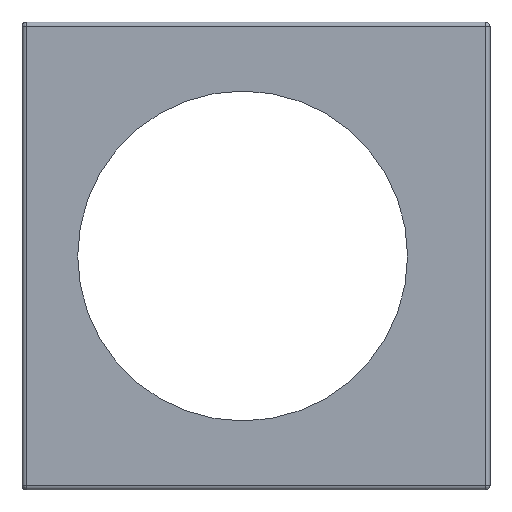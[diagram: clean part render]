
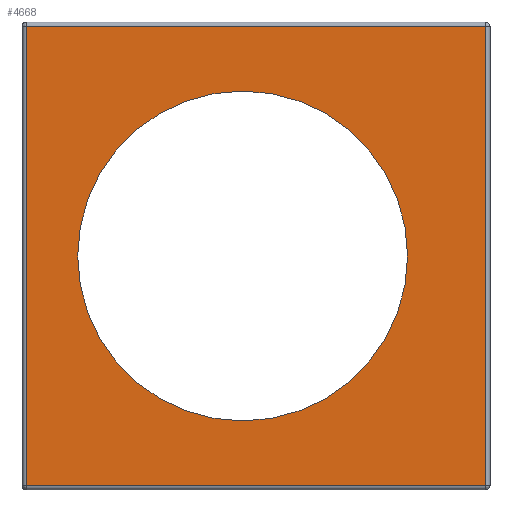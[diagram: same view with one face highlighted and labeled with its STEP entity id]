
A CAD part, left-side view. The second image highlights one B-rep face of the part: STEP entity #4668.
In plain terms, the highlighted planar face has unit normal (-1, 0, 0).
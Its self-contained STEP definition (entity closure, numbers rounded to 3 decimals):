
#382 = EDGE_CURVE ( 'NONE', #3660, #1232, #2609, .T. ) ;
#524 = FACE_OUTER_BOUND ( 'NONE', #1421, .T. ) ;
#639 = CARTESIAN_POINT ( 'NONE',  ( 2199.177, -681.094, -0.2 ) ) ;
#656 = VECTOR ( 'NONE', #1097, 1000. ) ;
#671 = AXIS2_PLACEMENT_3D ( 'NONE', #1227, #5343, #4101 ) ;
#885 = CARTESIAN_POINT ( 'NONE',  ( 2199.177, -670.194, -3.1 ) ) ;
#1097 = DIRECTION ( 'NONE',  ( 0., 0., -1. ) ) ;
#1122 = CARTESIAN_POINT ( 'NONE',  ( 2199.177, -670.194, -17.9 ) ) ;
#1165 = VERTEX_POINT ( 'NONE', #5241 ) ;
#1227 = CARTESIAN_POINT ( 'NONE',  ( 2199.177, -681.294, -21. ) ) ;
#1232 = VERTEX_POINT ( 'NONE', #639 ) ;
#1421 = EDGE_LOOP ( 'NONE', ( #5258, #3181, #2231, #3362 ) ) ;
#1586 = DIRECTION ( 'NONE',  ( 1., 0., 0. ) ) ;
#1626 = CARTESIAN_POINT ( 'NONE',  ( 2199.177, -660.494, -21. ) ) ;
#1642 = PLANE ( 'NONE',  #671 ) ;
#1787 = VECTOR ( 'NONE', #2471, 1000. ) ;
#1893 = VECTOR ( 'NONE', #2829, 1000. ) ;
#1928 = CARTESIAN_POINT ( 'NONE',  ( 2199.177, -670.194, -10.5 ) ) ;
#2231 = ORIENTED_EDGE ( 'NONE', *, *, #4566, .F. ) ;
#2323 = DIRECTION ( 'NONE',  ( 1., 0., 0. ) ) ;
#2348 = VERTEX_POINT ( 'NONE', #885 ) ;
#2424 = CARTESIAN_POINT ( 'NONE',  ( 2199.177, -681.294, -0.2 ) ) ;
#2471 = DIRECTION ( 'NONE',  ( 0., 1., 0. ) ) ;
#2567 = AXIS2_PLACEMENT_3D ( 'NONE', #1928, #2323, #4779 ) ;
#2584 = LINE ( 'NONE', #1626, #4762 ) ;
#2609 = LINE ( 'NONE', #2424, #1893 ) ;
#2703 = AXIS2_PLACEMENT_3D ( 'NONE', #4468, #1586, #4081 ) ;
#2775 = CIRCLE ( 'NONE', #2567, 7.4 ) ;
#2829 = DIRECTION ( 'NONE',  ( 0., -1., 0. ) ) ;
#3097 = VERTEX_POINT ( 'NONE', #1122 ) ;
#3172 = EDGE_CURVE ( 'NONE', #4975, #3660, #2584, .T. ) ;
#3181 = ORIENTED_EDGE ( 'NONE', *, *, #3172, .F. ) ;
#3289 = CARTESIAN_POINT ( 'NONE',  ( 2199.177, -681.294, -20.8 ) ) ;
#3362 = ORIENTED_EDGE ( 'NONE', *, *, #5143, .F. ) ;
#3474 = CARTESIAN_POINT ( 'NONE',  ( 2199.177, -660.494, -20.8 ) ) ;
#3660 = VERTEX_POINT ( 'NONE', #5311 ) ;
#3855 = LINE ( 'NONE', #3289, #1787 ) ;
#3906 = EDGE_LOOP ( 'NONE', ( #4625, #4720 ) ) ;
#3976 = CARTESIAN_POINT ( 'NONE',  ( 2199.177, -681.094, -21. ) ) ;
#4081 = DIRECTION ( 'NONE',  ( 0., 0., -1. ) ) ;
#4086 = EDGE_CURVE ( 'NONE', #3097, #2348, #2775, .T. ) ;
#4101 = DIRECTION ( 'NONE',  ( 0., 0., -1. ) ) ;
#4225 = CIRCLE ( 'NONE', #2703, 7.4 ) ;
#4355 = LINE ( 'NONE', #3976, #656 ) ;
#4468 = CARTESIAN_POINT ( 'NONE',  ( 2199.177, -670.194, -10.5 ) ) ;
#4511 = DIRECTION ( 'NONE',  ( 0., 0., 1. ) ) ;
#4533 = EDGE_CURVE ( 'NONE', #2348, #3097, #4225, .T. ) ;
#4566 = EDGE_CURVE ( 'NONE', #1165, #4975, #3855, .T. ) ;
#4625 = ORIENTED_EDGE ( 'NONE', *, *, #4086, .T. ) ;
#4668 = ADVANCED_FACE ( 'NONE', ( #5204, #524 ), #1642, .F. ) ;
#4720 = ORIENTED_EDGE ( 'NONE', *, *, #4533, .T. ) ;
#4762 = VECTOR ( 'NONE', #4511, 1000. ) ;
#4779 = DIRECTION ( 'NONE',  ( 0., 0., -1. ) ) ;
#4975 = VERTEX_POINT ( 'NONE', #3474 ) ;
#5143 = EDGE_CURVE ( 'NONE', #1232, #1165, #4355, .T. ) ;
#5204 = FACE_BOUND ( 'NONE', #3906, .T. ) ;
#5241 = CARTESIAN_POINT ( 'NONE',  ( 2199.177, -681.094, -20.8 ) ) ;
#5258 = ORIENTED_EDGE ( 'NONE', *, *, #382, .F. ) ;
#5311 = CARTESIAN_POINT ( 'NONE',  ( 2199.177, -660.494, -0.2 ) ) ;
#5343 = DIRECTION ( 'NONE',  ( 1., 0., 0. ) ) ;
